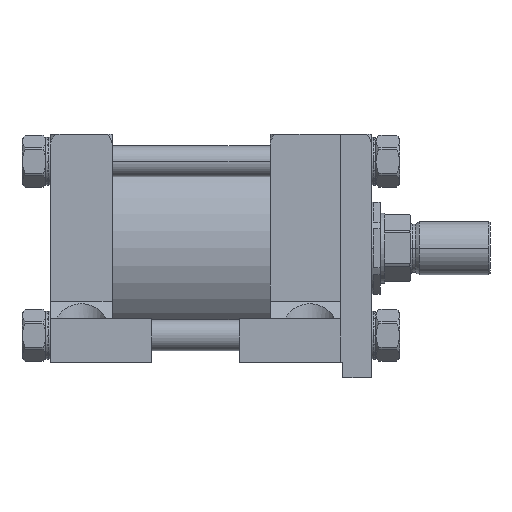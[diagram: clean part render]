
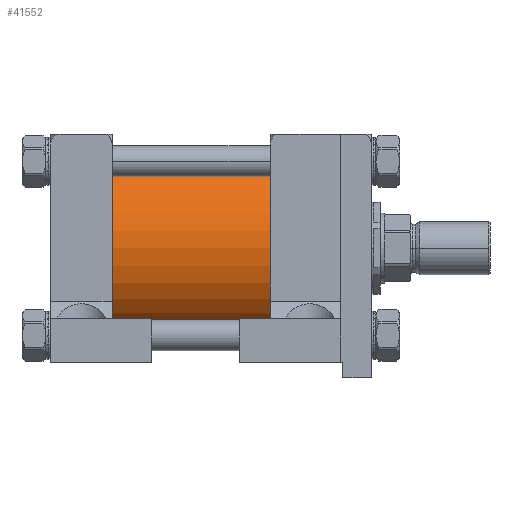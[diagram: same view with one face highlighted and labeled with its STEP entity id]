
A CAD part, front view. The second image highlights one B-rep face of the part: STEP entity #41552.
In plain terms, the highlighted cylindrical face has radius 73.025 mm (diameter 146.05 mm), a partial arc.
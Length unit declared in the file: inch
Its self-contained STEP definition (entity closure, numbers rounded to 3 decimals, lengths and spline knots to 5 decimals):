
#4618 = DIRECTION ( 'NONE',  ( 1., 0., 0. ) ) ;
#5072 = EDGE_CURVE ( 'NONE', #29178, #43197, #42827, .T. ) ;
#5538 = LINE ( 'NONE', #42796, #24110 ) ;
#7590 = AXIS2_PLACEMENT_3D ( 'NONE', #33015, #24533, #28285 ) ;
#7893 = DIRECTION ( 'NONE',  ( 0., 1., 0. ) ) ;
#9818 = EDGE_CURVE ( 'NONE', #58713, #43197, #54586, .T. ) ;
#12812 = AXIS2_PLACEMENT_3D ( 'NONE', #36701, #50185, #7893 ) ;
#14041 = CARTESIAN_POINT ( 'NONE',  ( -8.75, 0., -2.875 ) ) ;
#15364 = DIRECTION ( 'NONE',  ( 1., 0., 0. ) ) ;
#15882 = VECTOR ( 'NONE', #33121, 39.37008 ) ;
#16642 = ORIENTED_EDGE ( 'NONE', *, *, #21404, .T. ) ;
#21404 = EDGE_CURVE ( 'NONE', #32004, #29178, #59933, .T. ) ;
#24110 = VECTOR ( 'NONE', #4618, 39.37008 ) ;
#24533 = DIRECTION ( 'NONE',  ( 1., 0., 0. ) ) ;
#25323 = CARTESIAN_POINT ( 'NONE',  ( -3.75, 0., 2.875 ) ) ;
#28285 = DIRECTION ( 'NONE',  ( 0., 1., 0. ) ) ;
#29178 = VERTEX_POINT ( 'NONE', #38139 ) ;
#30637 = FACE_OUTER_BOUND ( 'NONE', #41487, .T. ) ;
#32004 = VERTEX_POINT ( 'NONE', #33668 ) ;
#33015 = CARTESIAN_POINT ( 'NONE',  ( -3.75, 0., 0. ) ) ;
#33121 = DIRECTION ( 'NONE',  ( 1., 0., 0. ) ) ;
#33668 = CARTESIAN_POINT ( 'NONE',  ( -8.75, 0., 2.875 ) ) ;
#35805 = EDGE_CURVE ( 'NONE', #32004, #58713, #5538, .T. ) ;
#36701 = CARTESIAN_POINT ( 'NONE',  ( -8.75, 0., 0. ) ) ;
#38139 = CARTESIAN_POINT ( 'NONE',  ( -8.75, 0., -2.875 ) ) ;
#40386 = CARTESIAN_POINT ( 'NONE',  ( -8.75, 0., 0. ) ) ;
#41487 = EDGE_LOOP ( 'NONE', ( #43407, #16642, #55279, #59205 ) ) ;
#41552 = ADVANCED_FACE ( 'NONE', ( #30637 ), #44159, .T. ) ;
#41706 = AXIS2_PLACEMENT_3D ( 'NONE', #40386, #15364, #58938 ) ;
#42796 = CARTESIAN_POINT ( 'NONE',  ( -8.75, 0., 2.875 ) ) ;
#42827 = LINE ( 'NONE', #14041, #15882 ) ;
#43197 = VERTEX_POINT ( 'NONE', #44350 ) ;
#43407 = ORIENTED_EDGE ( 'NONE', *, *, #35805, .F. ) ;
#44159 = CYLINDRICAL_SURFACE ( 'NONE', #41706, 2.875 ) ;
#44350 = CARTESIAN_POINT ( 'NONE',  ( -3.75, 0., -2.875 ) ) ;
#50185 = DIRECTION ( 'NONE',  ( 1., 0., 0. ) ) ;
#54586 = CIRCLE ( 'NONE', #7590, 2.875 ) ;
#55279 = ORIENTED_EDGE ( 'NONE', *, *, #5072, .T. ) ;
#58713 = VERTEX_POINT ( 'NONE', #25323 ) ;
#58938 = DIRECTION ( 'NONE',  ( 0., 0., -1. ) ) ;
#59205 = ORIENTED_EDGE ( 'NONE', *, *, #9818, .F. ) ;
#59933 = CIRCLE ( 'NONE', #12812, 2.875 ) ;
